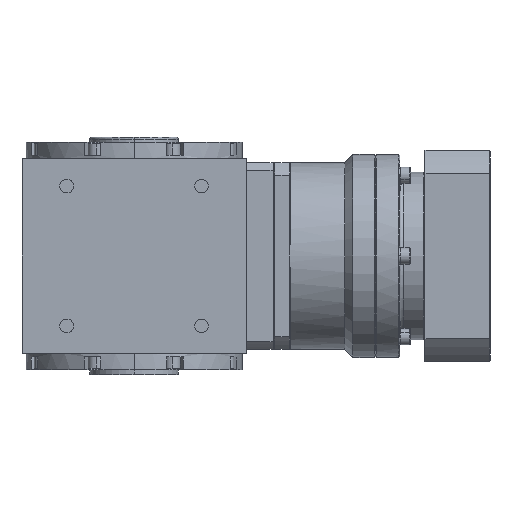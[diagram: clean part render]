
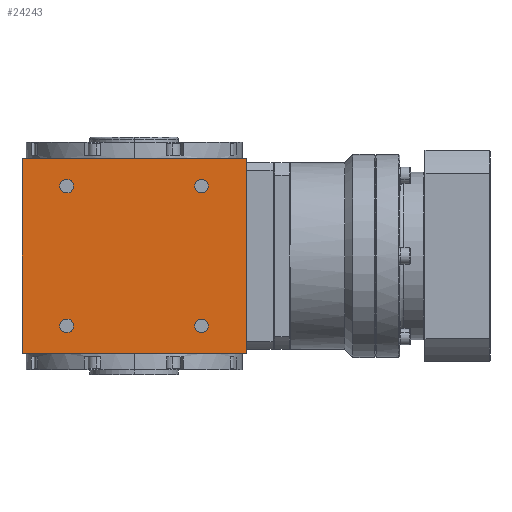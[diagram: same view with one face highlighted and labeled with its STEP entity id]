
A CAD part, left-side view. The second image highlights one B-rep face of the part: STEP entity #24243.
In plain terms, the highlighted planar face has unit normal (-1, 0, 0).
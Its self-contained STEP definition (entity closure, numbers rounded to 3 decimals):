
#421 = AXIS2_PLACEMENT_3D ( 'NONE', #30958, #33736, #15540 ) ;
#849 = AXIS2_PLACEMENT_3D ( 'NONE', #17157, #37551, #8075 ) ;
#883 = CARTESIAN_POINT ( 'NONE',  ( -69., 69., -60. ) ) ;
#1131 = EDGE_CURVE ( 'NONE', #20085, #6477, #22521, .T. ) ;
#1156 = ORIENTED_EDGE ( 'NONE', *, *, #1131, .T. ) ;
#2386 = DIRECTION ( 'NONE',  ( 0., -1., 0. ) ) ;
#2683 = CARTESIAN_POINT ( 'NONE',  ( -69., -41.5, 43. ) ) ;
#3148 = PLANE ( 'NONE',  #6607 ) ;
#4108 = VECTOR ( 'NONE', #7277, 1000. ) ;
#4227 = CARTESIAN_POINT ( 'NONE',  ( -69., -69., 60. ) ) ;
#4269 = CARTESIAN_POINT ( 'NONE',  ( -69., 41.5, 43. ) ) ;
#4416 = CARTESIAN_POINT ( 'NONE',  ( -69., -69., -60. ) ) ;
#4623 = ORIENTED_EDGE ( 'NONE', *, *, #37179, .T. ) ;
#5235 = CARTESIAN_POINT ( 'NONE',  ( -69., 41.5, -43. ) ) ;
#6213 = AXIS2_PLACEMENT_3D ( 'NONE', #2683, #38502, #33143 ) ;
#6477 = VERTEX_POINT ( 'NONE', #27246 ) ;
#6565 = DIRECTION ( 'NONE',  ( 0., 0., 1. ) ) ;
#6607 = AXIS2_PLACEMENT_3D ( 'NONE', #8704, #9285, #29854 ) ;
#7134 = CARTESIAN_POINT ( 'NONE',  ( -69., -37.3, -43. ) ) ;
#7277 = DIRECTION ( 'NONE',  ( 0., 0., 1. ) ) ;
#7552 = CIRCLE ( 'NONE', #23960, 4.2 ) ;
#7688 = CIRCLE ( 'NONE', #20853, 4.2 ) ;
#7806 = AXIS2_PLACEMENT_3D ( 'NONE', #30538, #12352, #24408 ) ;
#8075 = DIRECTION ( 'NONE',  ( 0., -1., 0. ) ) ;
#8704 = CARTESIAN_POINT ( 'NONE',  ( -69., 69., -60. ) ) ;
#9079 = ORIENTED_EDGE ( 'NONE', *, *, #12603, .T. ) ;
#9100 = FACE_OUTER_BOUND ( 'NONE', #36414, .T. ) ;
#9285 = DIRECTION ( 'NONE',  ( -1., 0., 0. ) ) ;
#9956 = CARTESIAN_POINT ( 'NONE',  ( -69., 69., 60. ) ) ;
#10172 = ORIENTED_EDGE ( 'NONE', *, *, #24221, .T. ) ;
#10427 = LINE ( 'NONE', #34546, #4108 ) ;
#10617 = VERTEX_POINT ( 'NONE', #7134 ) ;
#11130 = CARTESIAN_POINT ( 'NONE',  ( -69., 37.3, -43. ) ) ;
#11691 = DIRECTION ( 'NONE',  ( 0., -1., 0. ) ) ;
#12352 = DIRECTION ( 'NONE',  ( 1., 0., 0. ) ) ;
#12603 = EDGE_CURVE ( 'NONE', #23432, #20395, #17787, .T. ) ;
#12658 = LINE ( 'NONE', #27706, #32682 ) ;
#13840 = EDGE_CURVE ( 'NONE', #15423, #17041, #7552, .T. ) ;
#14136 = CARTESIAN_POINT ( 'NONE',  ( -69., -45.7, 43. ) ) ;
#14313 = CIRCLE ( 'NONE', #36421, 4.2 ) ;
#14503 = ORIENTED_EDGE ( 'NONE', *, *, #18713, .T. ) ;
#15377 = CIRCLE ( 'NONE', #7806, 4.2 ) ;
#15423 = VERTEX_POINT ( 'NONE', #29590 ) ;
#15424 = EDGE_CURVE ( 'NONE', #6477, #20085, #32709, .T. ) ;
#15540 = DIRECTION ( 'NONE',  ( 0., -1., 0. ) ) ;
#15854 = EDGE_CURVE ( 'NONE', #16700, #29882, #14313, .T. ) ;
#15930 = EDGE_LOOP ( 'NONE', ( #4623, #16380 ) ) ;
#16380 = ORIENTED_EDGE ( 'NONE', *, *, #15854, .T. ) ;
#16469 = EDGE_CURVE ( 'NONE', #23432, #20302, #12658, .T. ) ;
#16700 = VERTEX_POINT ( 'NONE', #31645 ) ;
#17041 = VERTEX_POINT ( 'NONE', #17051 ) ;
#17051 = CARTESIAN_POINT ( 'NONE',  ( -69., 45.7, 43. ) ) ;
#17157 = CARTESIAN_POINT ( 'NONE',  ( -69., 41.5, -43. ) ) ;
#17411 = EDGE_LOOP ( 'NONE', ( #1156, #36770 ) ) ;
#17604 = DIRECTION ( 'NONE',  ( 1., 0., 0. ) ) ;
#17787 = LINE ( 'NONE', #29288, #30455 ) ;
#18713 = EDGE_CURVE ( 'NONE', #17041, #15423, #7688, .T. ) ;
#18771 = ORIENTED_EDGE ( 'NONE', *, *, #13840, .T. ) ;
#19133 = VERTEX_POINT ( 'NONE', #4227 ) ;
#20085 = VERTEX_POINT ( 'NONE', #14136 ) ;
#20302 = VERTEX_POINT ( 'NONE', #9956 ) ;
#20395 = VERTEX_POINT ( 'NONE', #4416 ) ;
#20853 = AXIS2_PLACEMENT_3D ( 'NONE', #4269, #36685, #27605 ) ;
#21150 = FACE_BOUND ( 'NONE', #15930, .T. ) ;
#21748 = AXIS2_PLACEMENT_3D ( 'NONE', #32045, #29073, #35977 ) ;
#22521 = CIRCLE ( 'NONE', #421, 4.2 ) ;
#23275 = VERTEX_POINT ( 'NONE', #32522 ) ;
#23432 = VERTEX_POINT ( 'NONE', #883 ) ;
#23484 = EDGE_CURVE ( 'NONE', #23275, #10617, #15377, .T. ) ;
#23614 = DIRECTION ( 'NONE',  ( 1., 0., 0. ) ) ;
#23960 = AXIS2_PLACEMENT_3D ( 'NONE', #26715, #17604, #11691 ) ;
#24221 = EDGE_CURVE ( 'NONE', #10617, #23275, #36918, .T. ) ;
#24243 = ADVANCED_FACE ( 'NONE', ( #9100, #36179, #21150, #33211, #27486 ), #3148, .T. ) ;
#24408 = DIRECTION ( 'NONE',  ( 0., -1., 0. ) ) ;
#25234 = ORIENTED_EDGE ( 'NONE', *, *, #16469, .F. ) ;
#26444 = EDGE_CURVE ( 'NONE', #20302, #19133, #27431, .T. ) ;
#26715 = CARTESIAN_POINT ( 'NONE',  ( -69., 41.5, 43. ) ) ;
#26779 = EDGE_LOOP ( 'NONE', ( #18771, #14503 ) ) ;
#27246 = CARTESIAN_POINT ( 'NONE',  ( -69., -37.3, 43. ) ) ;
#27431 = LINE ( 'NONE', #37297, #32600 ) ;
#27486 = FACE_BOUND ( 'NONE', #17411, .T. ) ;
#27605 = DIRECTION ( 'NONE',  ( 0., -1., 0. ) ) ;
#27706 = CARTESIAN_POINT ( 'NONE',  ( -69., 69., -60. ) ) ;
#29073 = DIRECTION ( 'NONE',  ( 1., 0., 0. ) ) ;
#29288 = CARTESIAN_POINT ( 'NONE',  ( -69., 0., -60. ) ) ;
#29397 = EDGE_CURVE ( 'NONE', #20395, #19133, #10427, .T. ) ;
#29590 = CARTESIAN_POINT ( 'NONE',  ( -69., 37.3, 43. ) ) ;
#29854 = DIRECTION ( 'NONE',  ( 0., 0., 1. ) ) ;
#29882 = VERTEX_POINT ( 'NONE', #11130 ) ;
#30429 = EDGE_LOOP ( 'NONE', ( #38297, #10172 ) ) ;
#30455 = VECTOR ( 'NONE', #2386, 1000. ) ;
#30538 = CARTESIAN_POINT ( 'NONE',  ( -69., -41.5, -43. ) ) ;
#30947 = ORIENTED_EDGE ( 'NONE', *, *, #26444, .F. ) ;
#30958 = CARTESIAN_POINT ( 'NONE',  ( -69., -41.5, 43. ) ) ;
#31645 = CARTESIAN_POINT ( 'NONE',  ( -69., 45.7, -43. ) ) ;
#32045 = CARTESIAN_POINT ( 'NONE',  ( -69., -41.5, -43. ) ) ;
#32522 = CARTESIAN_POINT ( 'NONE',  ( -69., -45.7, -43. ) ) ;
#32600 = VECTOR ( 'NONE', #36518, 1000. ) ;
#32682 = VECTOR ( 'NONE', #6565, 1000. ) ;
#32709 = CIRCLE ( 'NONE', #6213, 4.2 ) ;
#33143 = DIRECTION ( 'NONE',  ( 0., -1., 0. ) ) ;
#33211 = FACE_BOUND ( 'NONE', #30429, .T. ) ;
#33736 = DIRECTION ( 'NONE',  ( 1., 0., 0. ) ) ;
#34546 = CARTESIAN_POINT ( 'NONE',  ( -69., -69., -60. ) ) ;
#35374 = ORIENTED_EDGE ( 'NONE', *, *, #29397, .T. ) ;
#35977 = DIRECTION ( 'NONE',  ( 0., -1., 0. ) ) ;
#36179 = FACE_BOUND ( 'NONE', #26779, .T. ) ;
#36414 = EDGE_LOOP ( 'NONE', ( #25234, #9079, #35374, #30947 ) ) ;
#36421 = AXIS2_PLACEMENT_3D ( 'NONE', #5235, #23614, #39049 ) ;
#36518 = DIRECTION ( 'NONE',  ( 0., -1., 0. ) ) ;
#36685 = DIRECTION ( 'NONE',  ( 1., 0., 0. ) ) ;
#36770 = ORIENTED_EDGE ( 'NONE', *, *, #15424, .T. ) ;
#36823 = CIRCLE ( 'NONE', #849, 4.2 ) ;
#36918 = CIRCLE ( 'NONE', #21748, 4.2 ) ;
#37179 = EDGE_CURVE ( 'NONE', #29882, #16700, #36823, .T. ) ;
#37297 = CARTESIAN_POINT ( 'NONE',  ( -69., 0., 60. ) ) ;
#37551 = DIRECTION ( 'NONE',  ( 1., 0., 0. ) ) ;
#38297 = ORIENTED_EDGE ( 'NONE', *, *, #23484, .T. ) ;
#38502 = DIRECTION ( 'NONE',  ( 1., 0., 0. ) ) ;
#39049 = DIRECTION ( 'NONE',  ( 0., -1., 0. ) ) ;
